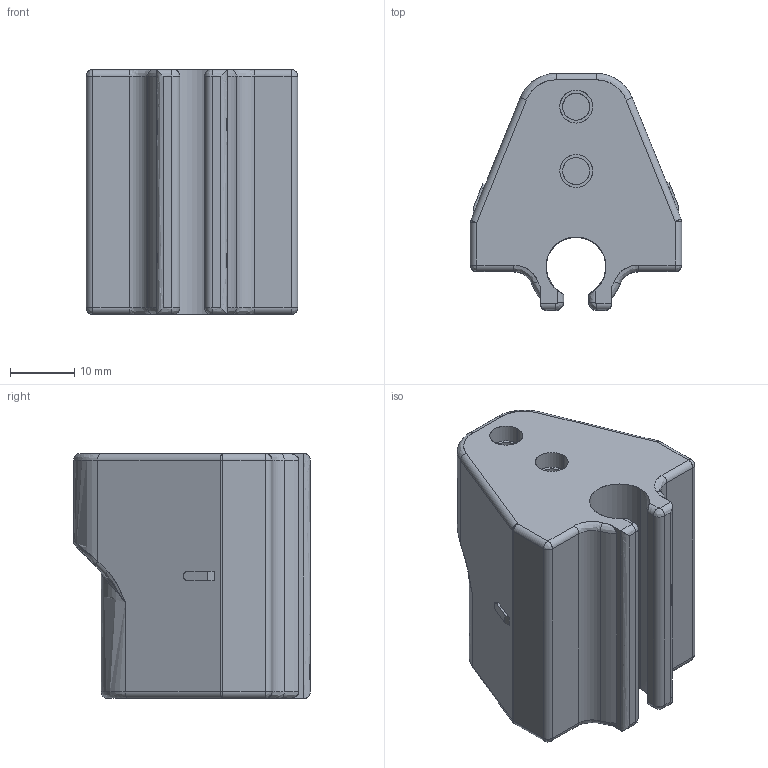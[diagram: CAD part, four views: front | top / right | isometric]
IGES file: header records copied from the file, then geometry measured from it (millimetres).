
Start section: SolidWorks IGES file using analytic representation for surfaces
Global section: file name: \\srv4gefran\dir-cat\Disegni Catalogo\Posizione\WPG\WPG-A-0100\3D\Solidworks 2019\ACCESSORI\PKIT723x.IGS; native system: SolidWorks 2019; preprocessor: SolidWorks 2019; author: Loda-w1; date: 181217.141936; units: millimetre
Bounding box: 32.8 x 36.75 x 38 mm (x, y, z)
Surface area: 7977 mm2 (no closed solid volume)
Topology: 0 solids, 0 shells, 130 faces, 1184 edges, 1176 vertices
Faces by surface type: bspline 69, revolution 61
